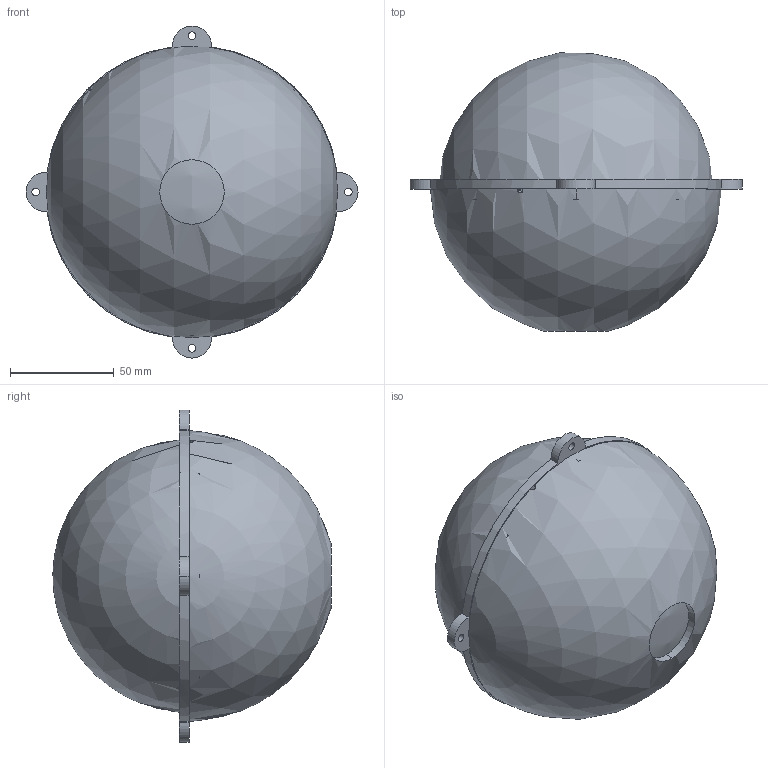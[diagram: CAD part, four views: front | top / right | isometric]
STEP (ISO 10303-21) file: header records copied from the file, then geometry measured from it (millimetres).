
FILE_DESCRIPTION(('STEP AP214'),'1');
FILE_NAME('Dome V3.stp','2024-07-08T09:56:02',(''),(''),'Spatial InterOp 3D',' ',' ');
FILE_SCHEMA(('AUTOMOTIVE_DESIGN { 1 0 10303 214 1 1 1 1 }'));
Length unit declared in the file: millimetre
Products named in the file (1): Pièce_53199
Bounding box: 159.63 x 133.77 x 159.63 mm (x, y, z)
Volume: 1345724.3 mm3; surface area: 77227 mm2
Topology: 2 solids, 2 shells, 93 faces, 244 edges, 156 vertices
Faces by surface type: cylinder 61, cone 16, plane 13, sphere 3
Entity records: 4682 total; most frequent: CARTESIAN_POINT 604, DIRECTION 568, ORIENTED_EDGE 480, STYLED_ITEM 266, PRESENTATION_STYLE_ASSIGNMENT 266, COLOUR_RGB 266, AXIS2_PLACEMENT_3D 244, EDGE_CURVE 240
